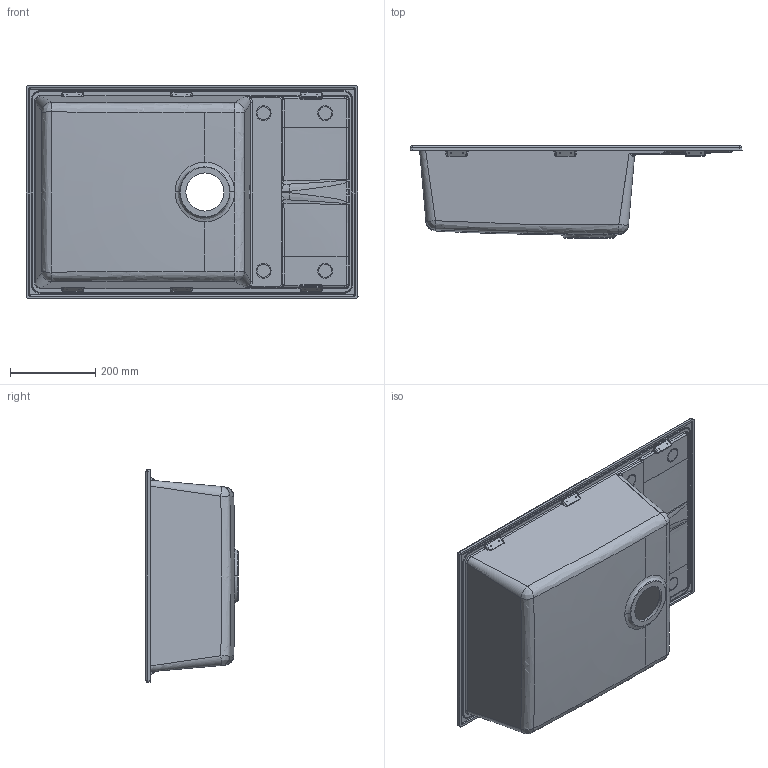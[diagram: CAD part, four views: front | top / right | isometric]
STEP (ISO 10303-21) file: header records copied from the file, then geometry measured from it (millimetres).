
FILE_DESCRIPTION (( 'STEP AP203' ), '1' );
FILE_NAME ('UNICO310.STEP', '2018-10-11T09:37:12', ( '' ), ( '' ), 'SwSTEP 2.0', 'SolidWorks 2013', '' );
FILE_SCHEMA (( 'CONFIG_CONTROL_DESIGN' ));
Length unit declared in the file: millimetre
Products named in the file (1): UNICO310
Bounding box: 780 x 216.49 x 500 mm (x, y, z)
Volume: 5842531.4 mm3; surface area: 1409553.2 mm2
Topology: 1 solids, 1 shells, 494 faces, 1171 edges, 679 vertices
Faces by surface type: bspline 238, cylinder 173, plane 73, cone 6, torus 4
Entity records: 55898 total; most frequent: CARTESIAN_POINT 46365, ORIENTED_EDGE 2294, DIRECTION 1505, EDGE_CURVE 1147, VERTEX_POINT 679, AXIS2_PLACEMENT_3D 597, EDGE_LOOP 522, FACE_OUTER_BOUND 494
